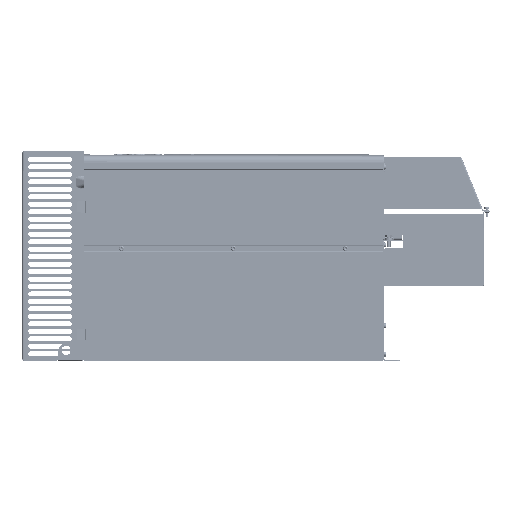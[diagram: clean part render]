
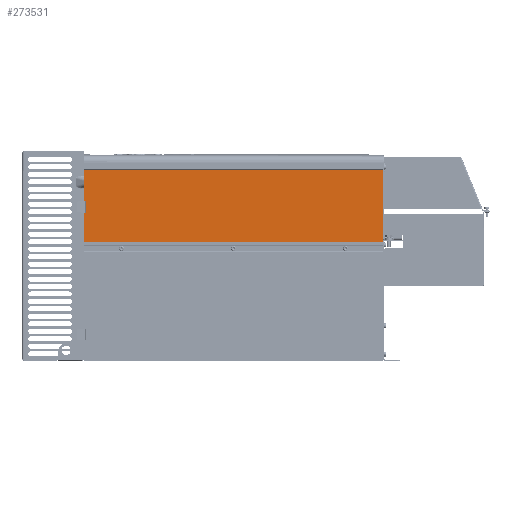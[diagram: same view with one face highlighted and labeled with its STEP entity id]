
A CAD part, left-side view. The second image highlights one B-rep face of the part: STEP entity #273531.
In plain terms, the highlighted planar face has unit normal (-1, 0, 0).
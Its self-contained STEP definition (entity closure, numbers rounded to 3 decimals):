
#4123=DIRECTION('',(0.,0.,-1.));
#4124=VECTOR('',#4123,12.);
#4125=CARTESIAN_POINT('',(-151.5,236.875,255.5));
#4126=LINE('',#4125,#4124);
#39343=DIRECTION('',(0.,0.,1.));
#39344=VECTOR('',#39343,2.8);
#39345=CARTESIAN_POINT('',(-151.5,-243.13,191.7));
#39346=LINE('',#39345,#39344);
#105497=DIRECTION('',(0.,-1.,0.));
#105498=VECTOR('',#105497,480.005);
#105499=CARTESIAN_POINT('',(-151.5,236.875,191.6));
#105500=LINE('',#105499,#105498);
#105504=DIRECTION('',(0.,0.,-1.));
#105505=VECTOR('',#105504,51.9);
#105506=CARTESIAN_POINT('',(-151.5,236.875,243.5));
#105507=LINE('',#105506,#105505);
#105511=DIRECTION('',(0.,0.,-1.));
#105512=VECTOR('',#105511,51.5);
#105513=CARTESIAN_POINT('',(-151.5,236.875,307.));
#105514=LINE('',#105513,#105512);
#105518=DIRECTION('',(0.,1.,0.));
#105519=VECTOR('',#105518,480.005);
#105520=CARTESIAN_POINT('',(-151.5,-243.13,307.));
#105521=LINE('',#105520,#105519);
#105525=DIRECTION('',(0.,0.,-1.));
#105526=VECTOR('',#105525,112.5);
#105527=CARTESIAN_POINT('',(-151.5,-243.13,307.));
#105528=LINE('',#105527,#105526);
#105532=DIRECTION('',(0.,0.,-1.));
#105533=VECTOR('',#105532,0.1);
#105534=CARTESIAN_POINT('',(-151.5,-243.13,191.7));
#105535=LINE('',#105534,#105533);
#176534=CARTESIAN_POINT('',(-151.5,236.875,243.5));
#176535=VERTEX_POINT('',#176534);
#176580=CARTESIAN_POINT('',(-151.5,236.875,255.5));
#176581=VERTEX_POINT('',#176580);
#177225=CARTESIAN_POINT('',(-151.5,-243.13,194.5));
#177227=VERTEX_POINT('',#177225);
#180457=CARTESIAN_POINT('',(-151.5,-243.13,307.));
#180458=CARTESIAN_POINT('',(-151.5,236.875,307.));
#180459=VERTEX_POINT('',#180457);
#180460=VERTEX_POINT('',#180458);
#180465=CARTESIAN_POINT('',(-151.5,236.875,191.6));
#180466=CARTESIAN_POINT('',(-151.5,-243.13,191.6));
#180467=VERTEX_POINT('',#180465);
#180468=VERTEX_POINT('',#180466);
#191592=CARTESIAN_POINT('',(-151.5,-243.13,191.7));
#191594=VERTEX_POINT('',#191592);
#273514=CARTESIAN_POINT('',(-151.5,236.875,318.2));
#273515=DIRECTION('',(-1.,0.,0.));
#273516=DIRECTION('',(0.,0.,-1.));
#273517=AXIS2_PLACEMENT_3D('',#273514,#273515,#273516);
#273518=PLANE('',#273517);
#273520=ORIENTED_EDGE('',*,*,#273519,.F.);
#273521=ORIENTED_EDGE('',*,*,#207232,.F.);
#273522=ORIENTED_EDGE('',*,*,#193765,.F.);
#273523=ORIENTED_EDGE('',*,*,#207333,.F.);
#273525=ORIENTED_EDGE('',*,*,#273524,.F.);
#273526=ORIENTED_EDGE('',*,*,#239935,.T.);
#273527=ORIENTED_EDGE('',*,*,#231046,.F.);
#273528=ORIENTED_EDGE('',*,*,#223443,.T.);
#273529=EDGE_LOOP('',(#273520,#273521,#273522,#273523,#273525,#273526,#273527,
#273528));
#273530=FACE_OUTER_BOUND('',#273529,.F.);
#273531=ADVANCED_FACE('',(#273530),#273518,.T.);
#193765=EDGE_CURVE('',#176581,#176535,#4126,.T.);
#207232=EDGE_CURVE('',#176535,#180467,#105507,.T.);
#207333=EDGE_CURVE('',#180460,#176581,#105514,.T.);
#223443=EDGE_CURVE('',#191594,#180468,#105535,.T.);
#231046=EDGE_CURVE('',#191594,#177227,#39346,.T.);
#239935=EDGE_CURVE('',#180459,#177227,#105528,.T.);
#273519=EDGE_CURVE('',#180467,#180468,#105500,.T.);
#273524=EDGE_CURVE('',#180459,#180460,#105521,.T.);
